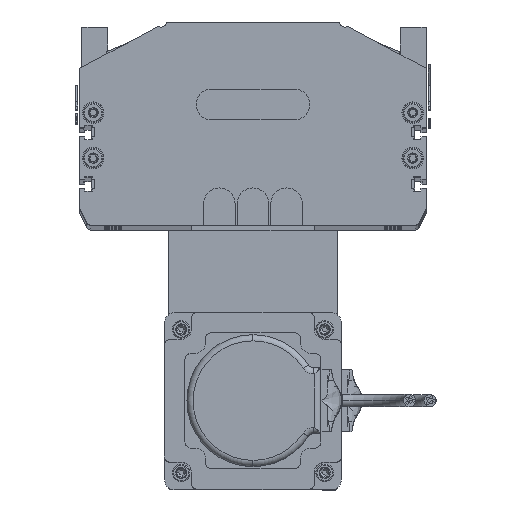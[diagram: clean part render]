
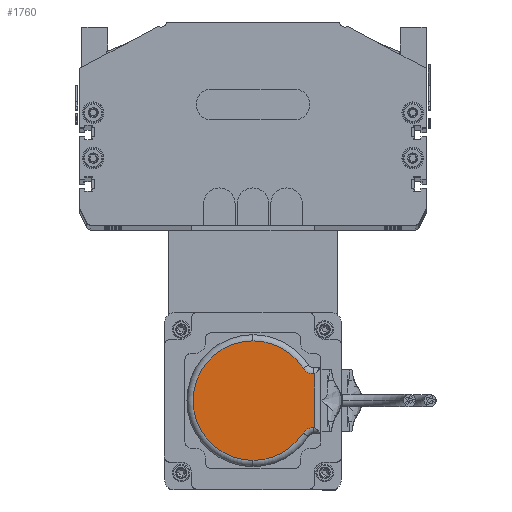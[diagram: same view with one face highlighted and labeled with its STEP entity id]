
A CAD part, top view. The second image highlights one B-rep face of the part: STEP entity #1760.
In plain terms, the highlighted planar face has unit normal (0, 0, 1).
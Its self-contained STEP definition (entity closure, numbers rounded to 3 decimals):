
#1089 = CIRCLE ( 'NONE', #1137, 6. ) ;
#1091 = DIRECTION ( 'NONE',  ( 0., 0., 1. ) ) ;
#1094 = CARTESIAN_POINT ( 'NONE',  ( 14., 62.394, 26. ) ) ;
#1095 = AXIS2_PLACEMENT_3D ( 'NONE', #1107, #1106, #1105 ) ;
#1097 = PLANE ( 'NONE',  #1095 ) ;
#1105 = DIRECTION ( 'NONE',  ( 1., 0., 0. ) ) ;
#1106 = DIRECTION ( 'NONE',  ( 0., 0., 1. ) ) ;
#1107 = CARTESIAN_POINT ( 'NONE',  ( 33., 33., 26. ) ) ;
#1111 = CARTESIAN_POINT ( 'NONE',  ( 20., 63., 26. ) ) ;
#1112 = DIRECTION ( 'NONE',  ( 1., 0., 0. ) ) ;
#1116 = FACE_OUTER_BOUND ( 'NONE', #1919, .T. ) ;
#1137 = AXIS2_PLACEMENT_3D ( 'NONE', #1094, #1091, #1112 ) ;
#1151 = CARTESIAN_POINT ( 'NONE',  ( 17.257, 57.355, 26. ) ) ;
#1244 = DIRECTION ( 'NONE',  ( 1., 0., 0. ) ) ;
#1245 = DIRECTION ( 'NONE',  ( 0., 0., 1. ) ) ;
#1246 = CARTESIAN_POINT ( 'NONE',  ( 33., 33., 26. ) ) ;
#1279 = AXIS2_PLACEMENT_3D ( 'NONE', #1246, #1245, #1244 ) ;
#1340 = CIRCLE ( 'NONE', #1279, 29. ) ;
#1647 = DIRECTION ( 'NONE',  ( 1., 0., 0. ) ) ;
#1728 = VERTEX_POINT ( 'NONE', #1151 ) ;
#1758 = EDGE_CURVE ( 'NONE', #1728, #2028, #1089, .T. ) ;
#1759 = ORIENTED_EDGE ( 'NONE', *, *, #2053, .F. ) ;
#1760 = ADVANCED_FACE ( 'NONE', ( #1116 ), #1097, .T. ) ;
#1761 = VERTEX_POINT ( 'NONE', #1111 ) ;
#1762 = ORIENTED_EDGE ( 'NONE', *, *, #1758, .F. ) ;
#1819 = EDGE_CURVE ( 'NONE', #1728, #2068, #1340, .T. ) ;
#1918 = ORIENTED_EDGE ( 'NONE', *, *, #2111, .T. ) ;
#1919 = EDGE_LOOP ( 'NONE', ( #1762, #2110, #2108, #1918, #1759, #2104, #2058, #2063 ) ) ;
#2023 = VERTEX_POINT ( 'NONE', #2454 ) ;
#2026 = EDGE_CURVE ( 'NONE', #1761, #2028, #2532, .T. ) ;
#2027 = VERTEX_POINT ( 'NONE', #2534 ) ;
#2028 = VERTEX_POINT ( 'NONE', #2329 ) ;
#2052 = VERTEX_POINT ( 'NONE', #2906 ) ;
#2053 = EDGE_CURVE ( 'NONE', #2023, #2027, #2903, .T. ) ;
#2058 = ORIENTED_EDGE ( 'NONE', *, *, #2061, .T. ) ;
#2061 = EDGE_CURVE ( 'NONE', #2052, #1761, #2939, .T. ) ;
#2063 = ORIENTED_EDGE ( 'NONE', *, *, #2026, .T. ) ;
#2068 = VERTEX_POINT ( 'NONE', #2922 ) ;
#2087 = VERTEX_POINT ( 'NONE', #3010 ) ;
#2092 = EDGE_CURVE ( 'NONE', #2068, #2087, #2995, .T. ) ;
#2102 = EDGE_CURVE ( 'NONE', #2023, #2052, #3317, .T. ) ;
#2104 = ORIENTED_EDGE ( 'NONE', *, *, #2102, .T. ) ;
#2108 = ORIENTED_EDGE ( 'NONE', *, *, #2092, .T. ) ;
#2110 = ORIENTED_EDGE ( 'NONE', *, *, #1819, .T. ) ;
#2111 = EDGE_CURVE ( 'NONE', #2087, #2027, #2514, .T. ) ;
#2329 = CARTESIAN_POINT ( 'NONE',  ( 20., 62.394, 26. ) ) ;
#2454 = CARTESIAN_POINT ( 'NONE',  ( 46., 62.394, 26. ) ) ;
#2514 = CIRCLE ( 'NONE', #2894, 29. ) ;
#2529 = DIRECTION ( 'NONE',  ( 0., -1., 0. ) ) ;
#2530 = VECTOR ( 'NONE', #2529, 1000. ) ;
#2531 = CARTESIAN_POINT ( 'NONE',  ( 20., 33., 26. ) ) ;
#2532 = LINE ( 'NONE', #2531, #2530 ) ;
#2534 = CARTESIAN_POINT ( 'NONE',  ( 48.743, 57.355, 26. ) ) ;
#2886 = DIRECTION ( 'NONE',  ( 1., 0., 0. ) ) ;
#2887 = DIRECTION ( 'NONE',  ( 0., 0., 1. ) ) ;
#2888 = CARTESIAN_POINT ( 'NONE',  ( 33., 33., 26. ) ) ;
#2894 = AXIS2_PLACEMENT_3D ( 'NONE', #2888, #2887, #2886 ) ;
#2903 = CIRCLE ( 'NONE', #2910, 6. ) ;
#2906 = CARTESIAN_POINT ( 'NONE',  ( 46., 63., 26. ) ) ;
#2910 = AXIS2_PLACEMENT_3D ( 'NONE', #2954, #2953, #2952 ) ;
#2922 = CARTESIAN_POINT ( 'NONE',  ( 4., 33., 26. ) ) ;
#2932 = DIRECTION ( 'NONE',  ( -1., 0., 0. ) ) ;
#2933 = VECTOR ( 'NONE', #2932, 1000. ) ;
#2934 = CARTESIAN_POINT ( 'NONE',  ( 17.5, 63., 26. ) ) ;
#2939 = LINE ( 'NONE', #2934, #2933 ) ;
#2952 = DIRECTION ( 'NONE',  ( 1., 0., 0. ) ) ;
#2953 = DIRECTION ( 'NONE',  ( 0., 0., 1. ) ) ;
#2954 = CARTESIAN_POINT ( 'NONE',  ( 52., 62.394, 26. ) ) ;
#2995 = CIRCLE ( 'NONE', #3000, 29. ) ;
#2998 = DIRECTION ( 'NONE',  ( 0., 0., 1. ) ) ;
#2999 = CARTESIAN_POINT ( 'NONE',  ( 33., 33., 26. ) ) ;
#3000 = AXIS2_PLACEMENT_3D ( 'NONE', #2999, #2998, #1647 ) ;
#3010 = CARTESIAN_POINT ( 'NONE',  ( 62., 33., 26. ) ) ;
#3306 = VECTOR ( 'NONE', #3330, 1000. ) ;
#3316 = CARTESIAN_POINT ( 'NONE',  ( 46., 33., 26. ) ) ;
#3317 = LINE ( 'NONE', #3316, #3306 ) ;
#3330 = DIRECTION ( 'NONE',  ( 0., 1., 0. ) ) ;
